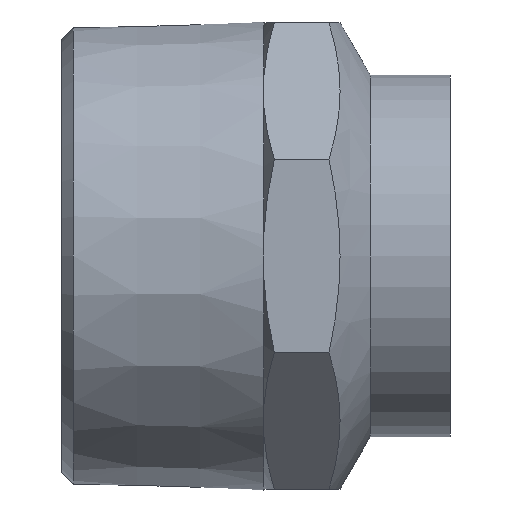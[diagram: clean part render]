
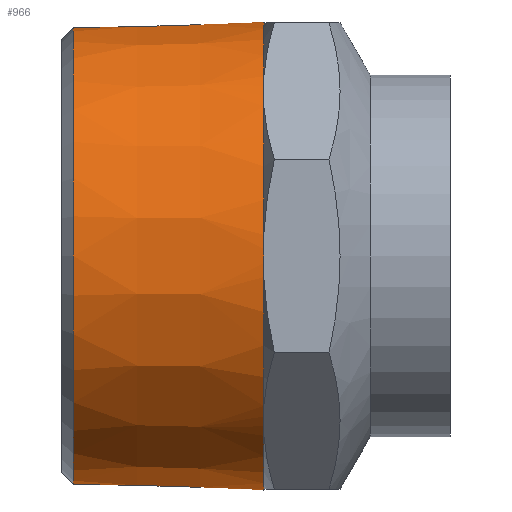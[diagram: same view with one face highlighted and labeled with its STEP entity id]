
A CAD part, front view. The second image highlights one B-rep face of the part: STEP entity #966.
In plain terms, the highlighted conical face has half-angle 1.79 degrees and reference radius 29.716 mm.
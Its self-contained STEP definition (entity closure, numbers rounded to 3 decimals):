
#75=CARTESIAN_POINT('',(26.,23.132,-19.294));
#76=VERTEX_POINT('',#75);
#121=CARTESIAN_POINT('',(26.,19.294,-23.132));
#122=VERTEX_POINT('',#121);
#150=CARTESIAN_POINT('',(26.0,2.714,-30.));
#151=VERTEX_POINT('',#150);
#189=CARTESIAN_POINT('',(26.0,-2.714,-30.));
#190=VERTEX_POINT('',#189);
#218=CARTESIAN_POINT('',(26.,-19.294,-23.132));
#219=VERTEX_POINT('',#218);
#257=CARTESIAN_POINT('',(26.,-23.132,-19.294));
#258=VERTEX_POINT('',#257);
#286=CARTESIAN_POINT('',(26.0,-30.,-2.714));
#287=VERTEX_POINT('',#286);
#325=CARTESIAN_POINT('',(26.0,-30.,2.714));
#326=VERTEX_POINT('',#325);
#354=CARTESIAN_POINT('',(26.,0.0,0.0));
#355=DIRECTION('',(1.0,0.0,0.0));
#356=DIRECTION('',(0.0,1.0,0.0));
#357=AXIS2_PLACEMENT_3D('',#354,#355,#356);
#358=CIRCLE('',#357,30.122);
#359=EDGE_CURVE('',#190,#151,#358,.T.);
#370=CARTESIAN_POINT('',(26.,0.0,0.0));
#371=DIRECTION('',(1.0,0.0,0.0));
#372=DIRECTION('',(0.0,1.0,0.0));
#373=AXIS2_PLACEMENT_3D('',#370,#371,#372);
#374=CIRCLE('',#373,30.122);
#375=EDGE_CURVE('',#258,#219,#374,.T.);
#386=CARTESIAN_POINT('',(26.,0.0,0.0));
#387=DIRECTION('',(1.0,0.0,0.0));
#388=DIRECTION('',(0.0,1.0,0.0));
#389=AXIS2_PLACEMENT_3D('',#386,#387,#388);
#390=CIRCLE('',#389,30.122);
#391=EDGE_CURVE('',#326,#287,#390,.T.);
#402=CARTESIAN_POINT('',(26.,-19.294,23.132));
#403=VERTEX_POINT('',#402);
#404=CARTESIAN_POINT('',(26.,-23.132,19.294));
#405=VERTEX_POINT('',#404);
#406=CARTESIAN_POINT('',(26.,0.0,0.0));
#407=DIRECTION('',(1.0,0.0,0.0));
#408=DIRECTION('',(0.0,1.0,0.0));
#409=AXIS2_PLACEMENT_3D('',#406,#407,#408);
#410=CIRCLE('',#409,30.122);
#411=EDGE_CURVE('',#403,#405,#410,.T.);
#427=CARTESIAN_POINT('',(26.,23.132,19.294));
#428=VERTEX_POINT('',#427);
#429=CARTESIAN_POINT('',(26.,19.294,23.132));
#430=VERTEX_POINT('',#429);
#431=CARTESIAN_POINT('',(26.,0.0,0.0));
#432=DIRECTION('',(1.0,0.0,0.0));
#433=DIRECTION('',(0.0,1.0,0.0));
#434=AXIS2_PLACEMENT_3D('',#431,#432,#433);
#435=CIRCLE('',#434,30.122);
#436=EDGE_CURVE('',#428,#430,#435,.T.);
#452=CARTESIAN_POINT('',(26.0,30.,-2.714));
#453=VERTEX_POINT('',#452);
#454=CARTESIAN_POINT('',(26.0,30.,2.714));
#455=VERTEX_POINT('',#454);
#456=CARTESIAN_POINT('',(26.,0.0,0.0));
#457=DIRECTION('',(1.0,0.0,0.0));
#458=DIRECTION('',(0.0,1.0,0.0));
#459=AXIS2_PLACEMENT_3D('',#456,#457,#458);
#460=CIRCLE('',#459,30.122);
#461=EDGE_CURVE('',#453,#455,#460,.T.);
#477=CARTESIAN_POINT('',(26.,0.0,0.0));
#478=DIRECTION('',(1.0,0.0,0.0));
#479=DIRECTION('',(0.0,1.0,0.0));
#480=AXIS2_PLACEMENT_3D('',#477,#478,#479);
#481=CIRCLE('',#480,30.122);
#482=EDGE_CURVE('',#122,#76,#481,.T.);
#671=CARTESIAN_POINT('',(26.0,-2.714,30.));
#672=VERTEX_POINT('',#671);
#686=CARTESIAN_POINT('',(26.,0.0,0.0));
#687=DIRECTION('',(1.0,0.0,0.0));
#688=DIRECTION('',(0.0,1.0,0.0));
#689=AXIS2_PLACEMENT_3D('',#686,#687,#688);
#690=CIRCLE('',#689,30.122);
#691=EDGE_CURVE('',#672,#403,#690,.T.);
#703=CARTESIAN_POINT('',(26.,0.0,0.0));
#704=DIRECTION('',(1.0,0.0,0.0));
#705=DIRECTION('',(0.0,1.0,0.0));
#706=AXIS2_PLACEMENT_3D('',#703,#704,#705);
#707=CIRCLE('',#706,30.122);
#708=EDGE_CURVE('',#405,#326,#707,.T.);
#720=CARTESIAN_POINT('',(26.,0.0,0.0));
#721=DIRECTION('',(1.0,0.0,0.0));
#722=DIRECTION('',(0.0,1.0,0.0));
#723=AXIS2_PLACEMENT_3D('',#720,#721,#722);
#724=CIRCLE('',#723,30.122);
#725=EDGE_CURVE('',#287,#258,#724,.T.);
#736=CARTESIAN_POINT('',(26.0,2.714,30.));
#737=VERTEX_POINT('',#736);
#738=CARTESIAN_POINT('',(26.,0.0,0.0));
#739=DIRECTION('',(1.0,0.0,0.0));
#740=DIRECTION('',(0.0,1.0,0.0));
#741=AXIS2_PLACEMENT_3D('',#738,#739,#740);
#742=CIRCLE('',#741,30.122);
#743=EDGE_CURVE('',#430,#737,#742,.T.);
#768=CARTESIAN_POINT('',(26.,0.0,0.0));
#769=DIRECTION('',(1.0,0.0,0.0));
#770=DIRECTION('',(0.0,1.0,0.0));
#771=AXIS2_PLACEMENT_3D('',#768,#769,#770);
#772=CIRCLE('',#771,30.122);
#773=EDGE_CURVE('',#219,#190,#772,.T.);
#785=CARTESIAN_POINT('',(26.,0.0,0.0));
#786=DIRECTION('',(1.0,0.0,0.0));
#787=DIRECTION('',(0.0,1.0,0.0));
#788=AXIS2_PLACEMENT_3D('',#785,#786,#787);
#789=CIRCLE('',#788,30.122);
#790=EDGE_CURVE('',#151,#122,#789,.T.);
#801=CARTESIAN_POINT('',(26.,0.0,0.0));
#802=DIRECTION('',(1.0,0.0,0.0));
#803=DIRECTION('',(0.0,1.0,0.0));
#804=AXIS2_PLACEMENT_3D('',#801,#802,#803);
#805=CIRCLE('',#804,30.122);
#806=EDGE_CURVE('',#455,#428,#805,.T.);
#848=CARTESIAN_POINT('',(26.,0.0,0.0));
#849=DIRECTION('',(1.0,0.0,0.0));
#850=DIRECTION('',(0.0,1.0,0.0));
#851=AXIS2_PLACEMENT_3D('',#848,#849,#850);
#852=CIRCLE('',#851,30.122);
#853=EDGE_CURVE('',#737,#672,#852,.T.);
#902=CARTESIAN_POINT('',(1.499,29.357,0.));
#903=VERTEX_POINT('',#902);
#904=CARTESIAN_POINT('',(1.499,0.0,0.));
#905=DIRECTION('',(-1.0,0.0,0.0));
#906=DIRECTION('',(0.0,-1.0,0.0));
#907=AXIS2_PLACEMENT_3D('',#904,#905,#906);
#908=CIRCLE('',#907,29.357);
#909=EDGE_CURVE('',#903,#903,#908,.T.);
#934=CARTESIAN_POINT('',(13.,0.0,0.0));
#935=DIRECTION('',(1.0,0.0,0.0));
#936=DIRECTION('',(0.0,1.0,0.0));
#937=AXIS2_PLACEMENT_3D('',#934,#935,#936);
#938=CONICAL_SURFACE('',#937,29.716,1.79);
#939=ORIENTED_EDGE('',*,*,#691,.F.);
#940=ORIENTED_EDGE('',*,*,#853,.F.);
#941=ORIENTED_EDGE('',*,*,#743,.F.);
#942=ORIENTED_EDGE('',*,*,#436,.F.);
#943=ORIENTED_EDGE('',*,*,#806,.F.);
#944=ORIENTED_EDGE('',*,*,#461,.F.);
#945=CARTESIAN_POINT('',(26.,0.0,0.0));
#946=DIRECTION('',(1.0,0.0,0.0));
#947=DIRECTION('',(0.0,1.0,0.0));
#948=AXIS2_PLACEMENT_3D('',#945,#946,#947);
#949=CIRCLE('',#948,30.122);
#950=EDGE_CURVE('',#76,#453,#949,.T.);
#951=ORIENTED_EDGE('',*,*,#950,.F.);
#952=ORIENTED_EDGE('',*,*,#482,.F.);
#953=ORIENTED_EDGE('',*,*,#790,.F.);
#954=ORIENTED_EDGE('',*,*,#359,.F.);
#955=ORIENTED_EDGE('',*,*,#773,.F.);
#956=ORIENTED_EDGE('',*,*,#375,.F.);
#957=ORIENTED_EDGE('',*,*,#725,.F.);
#958=ORIENTED_EDGE('',*,*,#391,.F.);
#959=ORIENTED_EDGE('',*,*,#708,.F.);
#960=ORIENTED_EDGE('',*,*,#411,.F.);
#961=EDGE_LOOP('',(#939,#940,#941,#942,#943,#944,#951,#952,#953,#954,#955,#956,#957,#958,#959,#960));
#962=FACE_OUTER_BOUND('',#961,.T.);
#963=ORIENTED_EDGE('',*,*,#909,.F.);
#964=EDGE_LOOP('',(#963));
#965=FACE_BOUND('',#964,.T.);
#966=ADVANCED_FACE('',(#962,#965),#938,.T.);
